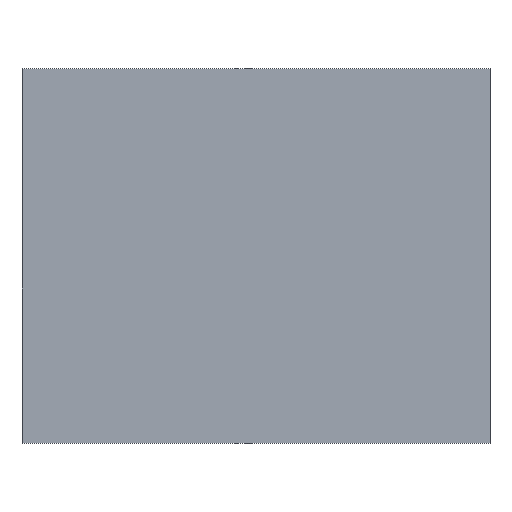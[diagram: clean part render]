
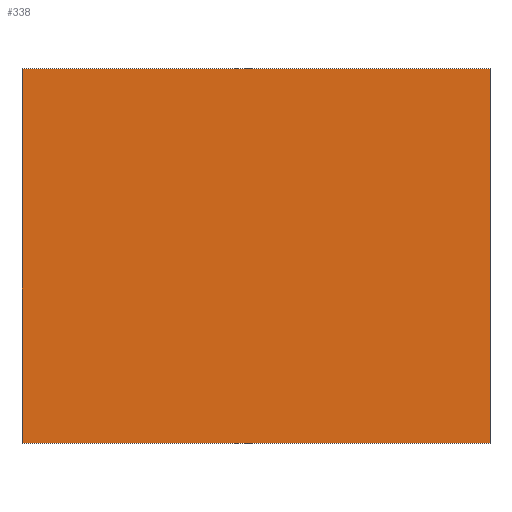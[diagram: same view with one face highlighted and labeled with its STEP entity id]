
A CAD part, top view. The second image highlights one B-rep face of the part: STEP entity #338.
In plain terms, the highlighted planar face has unit normal (0, 0, 1).
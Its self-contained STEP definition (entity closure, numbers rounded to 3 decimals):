
#24 = VERTEX_POINT('',#25);
#25 = CARTESIAN_POINT('',(4.5,-33.75,-21.33));
#32 = PLANE('',#33);
#33 = AXIS2_PLACEMENT_3D('',#34,#35,#36);
#34 = CARTESIAN_POINT('',(4.5,-33.75,-21.75));
#35 = DIRECTION('',(1.,0.,-0.));
#36 = DIRECTION('',(0.,0.,1.));
#44 = PLANE('',#45);
#45 = AXIS2_PLACEMENT_3D('',#46,#47,#48);
#46 = CARTESIAN_POINT('',(4.5,-33.75,-21.75));
#47 = DIRECTION('',(-0.,1.,0.));
#48 = DIRECTION('',(0.,0.,1.));
#85 = VERTEX_POINT('',#86);
#86 = CARTESIAN_POINT('',(4.5,-29.75,-21.33));
#100 = PLANE('',#101);
#101 = AXIS2_PLACEMENT_3D('',#102,#103,#104);
#102 = CARTESIAN_POINT('',(4.5,-29.75,-21.75));
#103 = DIRECTION('',(-0.,1.,0.));
#104 = DIRECTION('',(0.,0.,1.));
#112 = EDGE_CURVE('',#24,#85,#113,.T.);
#113 = SURFACE_CURVE('',#114,(#118,#125),.PCURVE_S1.);
#114 = LINE('',#115,#116);
#115 = CARTESIAN_POINT('',(4.5,-33.75,-21.33));
#116 = VECTOR('',#117,1.);
#117 = DIRECTION('',(-0.,1.,0.));
#118 = PCURVE('',#32,#119);
#119 = DEFINITIONAL_REPRESENTATION('',(#120),#124);
#120 = LINE('',#121,#122);
#121 = CARTESIAN_POINT('',(0.42,0.));
#122 = VECTOR('',#123,1.);
#123 = DIRECTION('',(0.,-1.));
#124 = ( GEOMETRIC_REPRESENTATION_CONTEXT(2) 
PARAMETRIC_REPRESENTATION_CONTEXT() REPRESENTATION_CONTEXT('2D SPACE',''
  ) );
#125 = PCURVE('',#126,#131);
#126 = PLANE('',#127);
#127 = AXIS2_PLACEMENT_3D('',#128,#129,#130);
#128 = CARTESIAN_POINT('',(4.5,-33.75,-21.33));
#129 = DIRECTION('',(0.,0.,1.));
#130 = DIRECTION('',(1.,0.,-0.));
#131 = DEFINITIONAL_REPRESENTATION('',(#132),#136);
#132 = LINE('',#133,#134);
#133 = CARTESIAN_POINT('',(0.,0.));
#134 = VECTOR('',#135,1.);
#135 = DIRECTION('',(0.,1.));
#136 = ( GEOMETRIC_REPRESENTATION_CONTEXT(2) 
PARAMETRIC_REPRESENTATION_CONTEXT() REPRESENTATION_CONTEXT('2D SPACE',''
  ) );
#144 = VERTEX_POINT('',#145);
#145 = CARTESIAN_POINT('',(9.5,-33.75,-21.33));
#152 = PLANE('',#153);
#153 = AXIS2_PLACEMENT_3D('',#154,#155,#156);
#154 = CARTESIAN_POINT('',(9.5,-33.75,-21.75));
#155 = DIRECTION('',(1.,0.,-0.));
#156 = DIRECTION('',(0.,0.,1.));
#195 = VERTEX_POINT('',#196);
#196 = CARTESIAN_POINT('',(9.5,-29.75,-21.33));
#217 = EDGE_CURVE('',#144,#195,#218,.T.);
#218 = SURFACE_CURVE('',#219,(#223,#230),.PCURVE_S1.);
#219 = LINE('',#220,#221);
#220 = CARTESIAN_POINT('',(9.5,-33.75,-21.33));
#221 = VECTOR('',#222,1.);
#222 = DIRECTION('',(-0.,1.,0.));
#223 = PCURVE('',#152,#224);
#224 = DEFINITIONAL_REPRESENTATION('',(#225),#229);
#225 = LINE('',#226,#227);
#226 = CARTESIAN_POINT('',(0.42,0.));
#227 = VECTOR('',#228,1.);
#228 = DIRECTION('',(0.,-1.));
#229 = ( GEOMETRIC_REPRESENTATION_CONTEXT(2) 
PARAMETRIC_REPRESENTATION_CONTEXT() REPRESENTATION_CONTEXT('2D SPACE',''
  ) );
#230 = PCURVE('',#126,#231);
#231 = DEFINITIONAL_REPRESENTATION('',(#232),#236);
#232 = LINE('',#233,#234);
#233 = CARTESIAN_POINT('',(5.,0.));
#234 = VECTOR('',#235,1.);
#235 = DIRECTION('',(0.,1.));
#236 = ( GEOMETRIC_REPRESENTATION_CONTEXT(2) 
PARAMETRIC_REPRESENTATION_CONTEXT() REPRESENTATION_CONTEXT('2D SPACE',''
  ) );
#263 = EDGE_CURVE('',#24,#144,#264,.T.);
#264 = SURFACE_CURVE('',#265,(#269,#276),.PCURVE_S1.);
#265 = LINE('',#266,#267);
#266 = CARTESIAN_POINT('',(4.5,-33.75,-21.33));
#267 = VECTOR('',#268,1.);
#268 = DIRECTION('',(1.,0.,-0.));
#269 = PCURVE('',#44,#270);
#270 = DEFINITIONAL_REPRESENTATION('',(#271),#275);
#271 = LINE('',#272,#273);
#272 = CARTESIAN_POINT('',(0.42,0.));
#273 = VECTOR('',#274,1.);
#274 = DIRECTION('',(0.,1.));
#275 = ( GEOMETRIC_REPRESENTATION_CONTEXT(2) 
PARAMETRIC_REPRESENTATION_CONTEXT() REPRESENTATION_CONTEXT('2D SPACE',''
  ) );
#276 = PCURVE('',#126,#277);
#277 = DEFINITIONAL_REPRESENTATION('',(#278),#282);
#278 = LINE('',#279,#280);
#279 = CARTESIAN_POINT('',(0.,0.));
#280 = VECTOR('',#281,1.);
#281 = DIRECTION('',(1.,0.));
#282 = ( GEOMETRIC_REPRESENTATION_CONTEXT(2) 
PARAMETRIC_REPRESENTATION_CONTEXT() REPRESENTATION_CONTEXT('2D SPACE',''
  ) );
#310 = EDGE_CURVE('',#85,#195,#311,.T.);
#311 = SURFACE_CURVE('',#312,(#316,#323),.PCURVE_S1.);
#312 = LINE('',#313,#314);
#313 = CARTESIAN_POINT('',(4.5,-29.75,-21.33));
#314 = VECTOR('',#315,1.);
#315 = DIRECTION('',(1.,0.,-0.));
#316 = PCURVE('',#100,#317);
#317 = DEFINITIONAL_REPRESENTATION('',(#318),#322);
#318 = LINE('',#319,#320);
#319 = CARTESIAN_POINT('',(0.42,0.));
#320 = VECTOR('',#321,1.);
#321 = DIRECTION('',(0.,1.));
#322 = ( GEOMETRIC_REPRESENTATION_CONTEXT(2) 
PARAMETRIC_REPRESENTATION_CONTEXT() REPRESENTATION_CONTEXT('2D SPACE',''
  ) );
#323 = PCURVE('',#126,#324);
#324 = DEFINITIONAL_REPRESENTATION('',(#325),#329);
#325 = LINE('',#326,#327);
#326 = CARTESIAN_POINT('',(0.,4.));
#327 = VECTOR('',#328,1.);
#328 = DIRECTION('',(1.,0.));
#329 = ( GEOMETRIC_REPRESENTATION_CONTEXT(2) 
PARAMETRIC_REPRESENTATION_CONTEXT() REPRESENTATION_CONTEXT('2D SPACE',''
  ) );
#338 = ADVANCED_FACE('',(#339),#126,.T.);
#339 = FACE_BOUND('',#340,.T.);
#340 = EDGE_LOOP('',(#341,#342,#343,#344));
#341 = ORIENTED_EDGE('',*,*,#112,.F.);
#342 = ORIENTED_EDGE('',*,*,#263,.T.);
#343 = ORIENTED_EDGE('',*,*,#217,.T.);
#344 = ORIENTED_EDGE('',*,*,#310,.F.);
